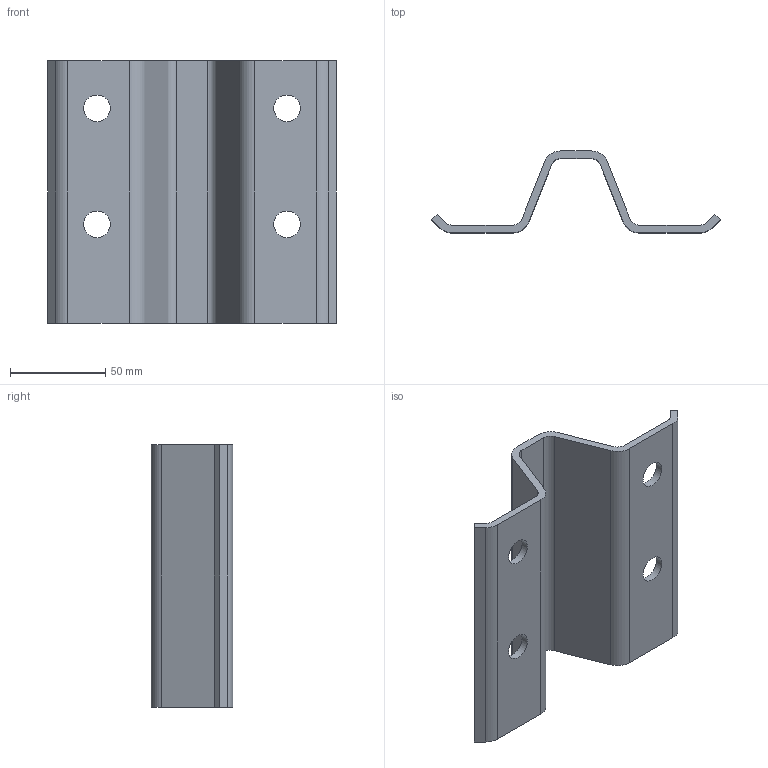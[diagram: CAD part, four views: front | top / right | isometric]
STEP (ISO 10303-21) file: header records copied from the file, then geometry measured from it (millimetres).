
FILE_DESCRIPTION(/* description */ (''),/* implementation_level */ '2;1');
FILE_NAME(/* name */ 'ZC155.stp',/* time_stamp */ '2023-07-03T11:19:10+02:00',/* author */ ('woriedl'),/* organization */ (''),/* preprocessor_version */ 'ST-DEVELOPER v19.2',/* originating_system */ 'AutoCAD Mechanical',/* authorisation */ '');
FILE_SCHEMA (('AUTOMOTIVE_DESIGN { 1 0 10303 214 3 1 1 }'));
Length unit declared in the file: centimetre
Products named in the file (1): Product
Bounding box: 151.72 x 43 x 138 mm (x, y, z)
Volume: 108943.9 mm3; surface area: 57894.3 mm2
Topology: 1 solids, 1 shells, 34 faces, 96 edges, 64 vertices
Faces by surface type: plane 18, cylinder 16
Full cylindrical faces by diameter (mm): 14 x4
Entity records: 1151 total; most frequent: DIRECTION 198, CARTESIAN_POINT 195, ORIENTED_EDGE 192, EDGE_CURVE 96, AXIS2_PLACEMENT_3D 67, LINE 64, VECTOR 64, VERTEX_POINT 64
